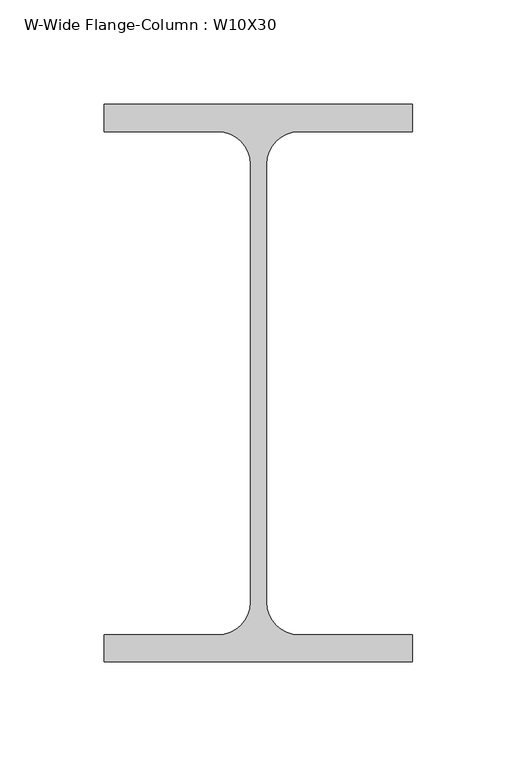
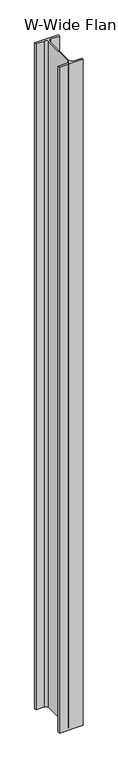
"""IFC4 building model written with IfcOpenShell, lengths in millimetres: column geometry, W-Wide Flange-Column : W10X30."""

from ifc_helpers import new_model, si_unit, point, frame, frame_2d, origin, place, context, project, spatial, polyline, circle_curve, trimmed, segment, composite_curve, outline, extrude, source, transform, mapped, element, save


def w_wide_flange_column_w10x30_b382757e(model_context):
    return source(origin(), model_context, "Body", "SweptSolid", [
        extrude(outline(composite_curve([segment(polyline([(73.787, 133.35), (73.787, 120.396), (19.431, 120.396)]), True, "CONTINUOUS"), segment(trimmed(circle_curve(frame_2d((19.431, 104.775)), 15.621), [point((19.431, 120.396))], [point((3.81, 104.775))], True, "CARTESIAN"), True, "CONTINUOUS"), segment(polyline([(3.81, 104.775), (3.81, -104.775)]), True, "CONTINUOUS"), segment(trimmed(circle_curve(frame_2d((19.431, -104.775)), 15.621), [point((3.81, -104.775))], [point((19.431, -120.396))], True, "CARTESIAN"), True, "CONTINUOUS"), segment(polyline([(19.431, -120.396), (73.787, -120.396), (73.787, -133.35), (-73.787, -133.35), (-73.787, -120.396), (-19.431, -120.396)]), True, "CONTINUOUS"), segment(trimmed(circle_curve(frame_2d((-19.431, -104.775)), 15.621), [point((-19.431, -120.396))], [point((-3.81, -104.775))], True, "CARTESIAN"), True, "CONTINUOUS"), segment(polyline([(-3.81, -104.775), (-3.81, 104.775)]), True, "CONTINUOUS"), segment(trimmed(circle_curve(frame_2d((-19.431, 104.775)), 15.621), [point((-3.81, 104.775))], [point((-19.431, 120.396))], True, "CARTESIAN"), True, "CONTINUOUS"), segment(polyline([(-19.431, 120.396), (-73.787, 120.396), (-73.787, 133.35), (73.787, 133.35)]), True, "CONTINUOUS")], self_intersect=False)), frame((0.0, 0.0, 9017.0), z_axis=(0.0, 0.0, 1.0), x_axis=(1.0, 0.0, 0.0)), (0.0, 0.0, 1.0), 4394.2),
    ])


if __name__ == "__main__":
    model = new_model("IFC4")
    model_context = context("Model", 3, world=origin())
    ifc_project = project(units=[si_unit("LENGTHUNIT", "METRE", prefix="MILLI")], contexts=[model_context])
    site = spatial("IfcSite", under=ifc_project)
    building = spatial("IfcBuilding", under=site)
    placement = place(None, origin())
    w_wide_flange_column_w10x30_shape = w_wide_flange_column_w10x30_b382757e(model_context)
    element("IfcColumn", 1, ObjectType="W-Wide Flange-Column : W10X30", at=placement, inside=building, context=model_context, shape_type="MappedRepresentation", body=[
        mapped(w_wide_flange_column_w10x30_shape, transform((0.0, 0.0, 0.0), x_axis=(1.0, 0.0, 0.0), y_axis=(0.0, 1.0, 0.0), z_axis=(0.0, 0.0, 1.0))),
    ])
    save(model, "model.ifc")
